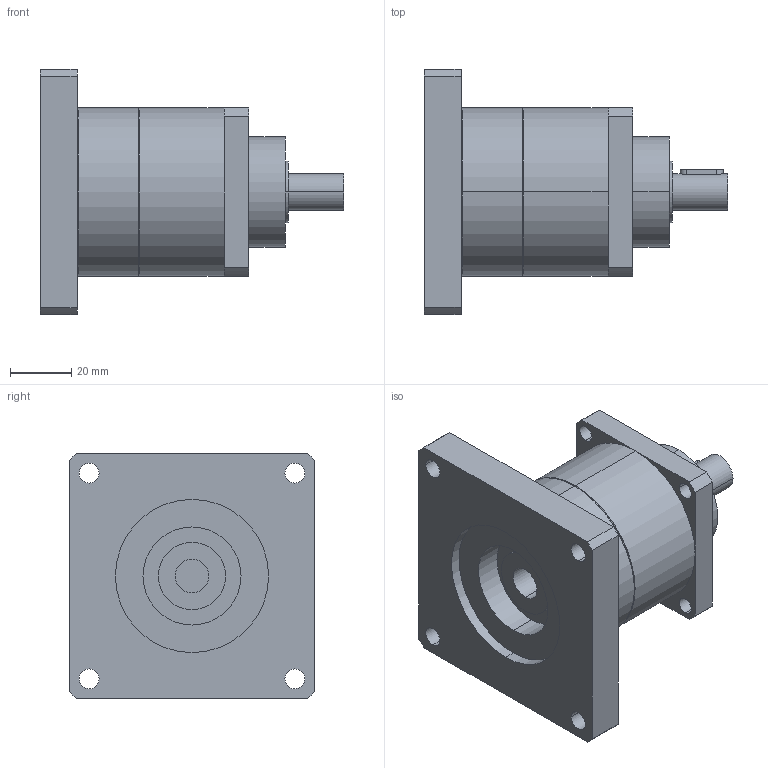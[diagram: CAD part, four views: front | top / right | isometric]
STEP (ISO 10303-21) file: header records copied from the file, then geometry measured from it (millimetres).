
FILE_DESCRIPTION(('CoCreate Modeling STEP Export'),'2;1');
FILE_NAME('GPT55_ig-3-4-5-7-10_12_B5A_11_P27.stp','2014-08-25T14:31:37',(''),(''),'CoCreate Modeling STEP processor for AP214 (Solid Model)','CoCreate Modeling 16.00C 25-Feb-2009 (C) Parametric Technology GmbH','');
FILE_SCHEMA(('AUTOMOTIVE_DESIGN { 1 0 10303 214 1 1 1 1 }'));
Length unit declared in the file: millimetre
Products named in the file (2): GPT55_ig-3-4-5-7-10_12_B5A_11_P27
Assembly tree (1 placements, depth 2):
  GPT55_ig-3-4-5-7-10_12_B5A_11_P27
    GPT55_ig-3-4-5-7-10_12_B5A_11_P27
Bounding box: 99 x 80 x 80 mm (x, y, z)
Volume: 212205.1 mm3; surface area: 33738.9 mm2
Topology: 1 solids, 1 shells, 77 faces, 204 edges, 139 vertices
Faces by surface type: cylinder 46, plane 27, cone 4
Entity records: 2515 total; most frequent: CARTESIAN_POINT 710, ORIENTED_EDGE 408, DIRECTION 318, EDGE_CURVE 204, VERTEX_POINT 139, AXIS2_PLACEMENT_3D 117, EDGE_LOOP 103, VECTOR 84
